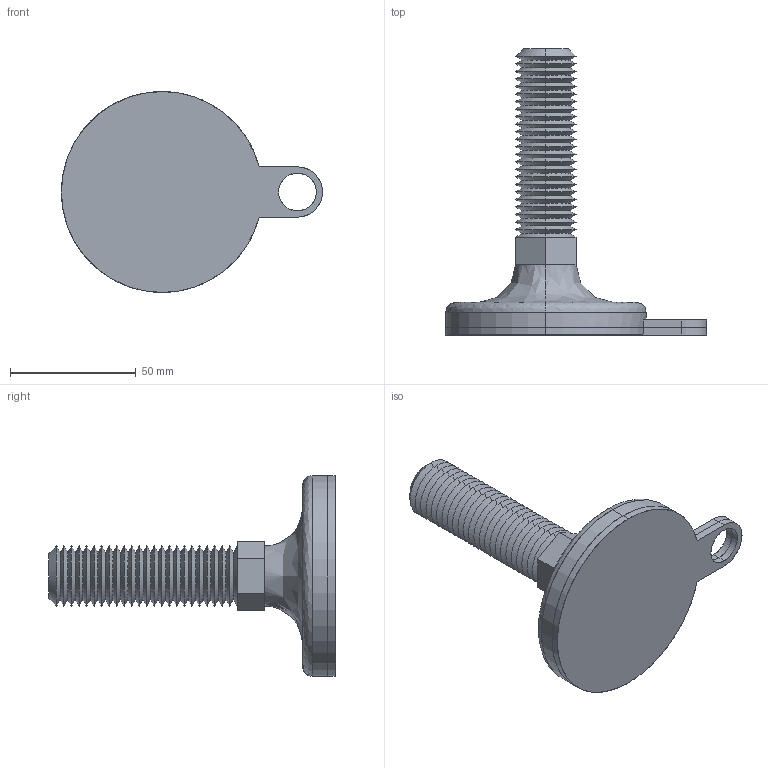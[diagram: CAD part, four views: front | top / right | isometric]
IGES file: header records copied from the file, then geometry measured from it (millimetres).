
Start section: SolidWorks IGES file using analytic representation for surfaces
Global section: file name: C:\Users\liam_\OneDrive\Documents\WORK\Work for WixRoyd\Job Files\J-00026 - Matt Davis CAD - 20191124\04. CAD Drawings\Wixroyd20191124\34704_v2\34704_v2_20191128_IGES\34704.W2400.igs; native system: SolidWorks 2017; preprocessor: SolidWorks 2017; author: liam_; date: 191128.202900; units: millimetre
Bounding box: 104 x 114 x 80 mm (x, y, z)
Surface area: 36060.2 mm2 (no closed solid volume)
Topology: 0 solids, 0 shells, 141 faces, 1196 edges, 1196 vertices
Faces by surface type: revolution 109, bspline 32
